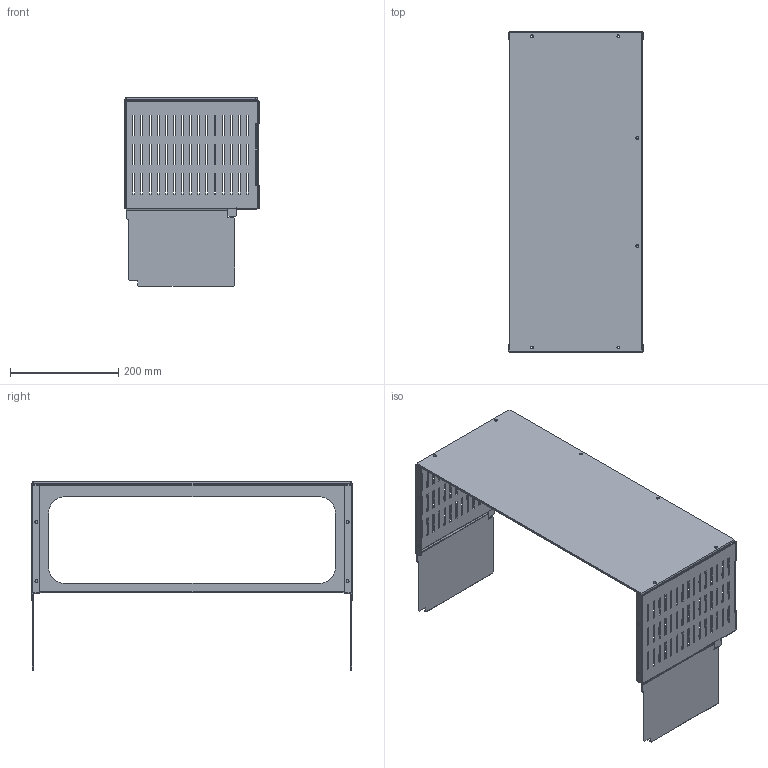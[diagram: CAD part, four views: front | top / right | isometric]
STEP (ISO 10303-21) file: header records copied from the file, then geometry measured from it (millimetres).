
FILE_DESCRIPTION(('CAx-IF Rec.Pracs.---Model Styling and Organization---1.2---2011-12-15','CAx-IF Rec.Pracs.---Geometric and Assembly Validation Properties---4.1---2014-06-16','CAx-IF Rec.Pracs.---PMI Polyline Presentation---2.0---2013-05-24'),'2;1');
FILE_NAME('R5M2W12MRA4.stp','2021-05-05T13:10:20+03:00',(''),(''),'STEP Interface 4.4 by CT CoreTechnologie','3D_Evolution4.4 by CT CoreTechnologie','');
FILE_SCHEMA(('AUTOMOTIVE_DESIGN { 1 0 10303 214 1 1 1 1 }'));
Length unit declared in the file: millimetre
Products named in the file (5): R5M2W12MRA4; RB.1387.00.00.0_-00; RB.1386.00.00.0_-01; RB.1388.00.00.0_-00; RB.1386.00.00.0_-00
Assembly tree (4 placements, depth 2):
  R5M2W12MRA4
    RB.1387.00.00.0_-00
    RB.1386.00.00.0_-01
    RB.1388.00.00.0_-00
    RB.1386.00.00.0_-00
Bounding box: 248 x 593 x 348.48 mm (x, y, z)
Surface area: 758482.9 mm2 (no closed solid volume)
Topology: 0 solids, 8 shells, 641 faces, 1836 edges, 1211 vertices
Faces by surface type: plane 559, cylinder 80, bspline 2
Entity records: 21341 total; most frequent: CARTESIAN_POINT 3796, ORIENTED_EDGE 3672, DIRECTION 3281, EDGE_CURVE 1836, VECTOR 1673, LINE 1673, VERTEX_POINT 1211, EDGE_LOOP 867
